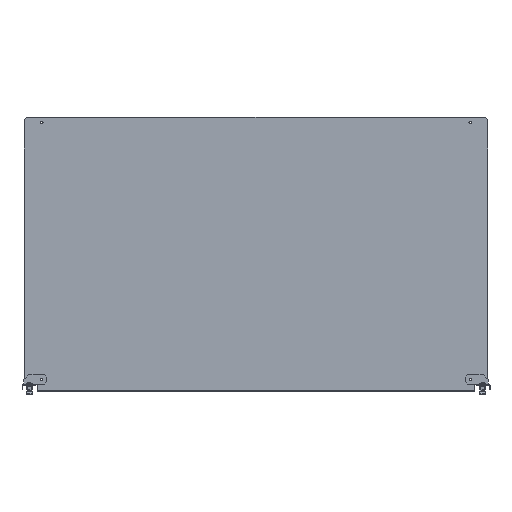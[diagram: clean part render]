
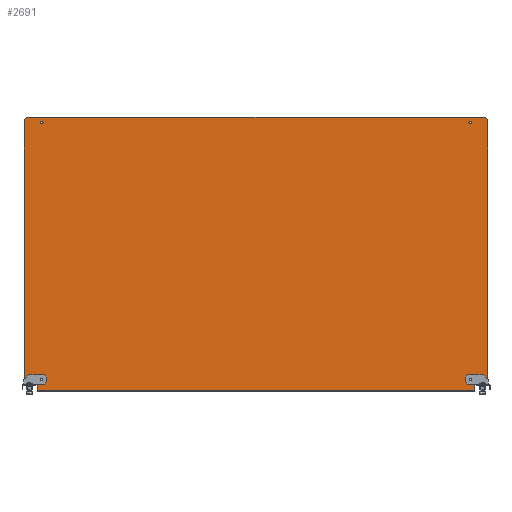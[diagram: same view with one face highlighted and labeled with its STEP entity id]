
A CAD part, top view. The second image highlights one B-rep face of the part: STEP entity #2691.
In plain terms, the highlighted planar face has unit normal (0, 0, 1).
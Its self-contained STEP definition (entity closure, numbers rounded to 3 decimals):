
#386=CARTESIAN_POINT(' ',(443.25,-255.,0.));
#387=VERTEX_POINT(' ',#386);
#461=CARTESIAN_POINT(' ',(440.25,-258.,0.));
#462=VERTEX_POINT(' ',#461);
#476=CARTESIAN_POINT(' ',(440.25,-255.,0.));
#481=DIRECTION(' ',(0.,-0.,1.));
#486=DIRECTION(' ',(0.,-1.,0.));
#491=AXIS2_PLACEMENT_3D(' ',#476,#481,#486);
#496=CIRCLE('',#491,3.);
#501=EDGE_CURVE(' ',#462,#387,#496,.T.);
#596=CARTESIAN_POINT(' ',(440.251,-254.999,0.));
#601=DIRECTION(' ',(0.,0.,1.));
#606=DIRECTION(' ',(1.,0.,0.));
#611=AXIS2_PLACEMENT_3D(' ',#596,#601,#606);
#616=CIRCLE('',#611,2.999);
#621=CARTESIAN_POINT(' ',(440.25,-252.,0.));
#622=VERTEX_POINT(' ',#621);
#626=EDGE_CURVE(' ',#387,#622,#616,.T.);
#1671=CARTESIAN_POINT(' ',(434.25,-258.,0.));
#1676=DIRECTION(' ',(1.,0.,0.));
#1681=VECTOR(' ',#1676,1.);
#1686=LINE('',#1671,#1681);
#1691=CARTESIAN_POINT(' ',(434.25,-258.,0.));
#1692=VERTEX_POINT(' ',#1691);
#1696=EDGE_CURVE(' ',#1692,#462,#1686,.T.);
#1761=DIRECTION(' ',(-0.,-0.,1.));
#1766=CARTESIAN_POINT(' ',(473.,-277.4,0.));
#1771=DIRECTION(' ',(0.,1.,0.));
#1776=AXIS2_PLACEMENT_3D(' ',#1766,#1761,#1771);
#1781=PLANE('NONE',#1776);
#1786=CARTESIAN_POINT(' ',(446.,-265.,0.));
#1791=DIRECTION(' ',(1.,0.,0.));
#1796=VECTOR(' ',#1791,1.);
#1801=LINE('',#1786,#1796);
#1806=CARTESIAN_POINT(' ',(446.,-265.,0.));
#1807=VERTEX_POINT(' ',#1806);
#1811=CARTESIAN_POINT(' ',(468.,-265.,0.));
#1812=VERTEX_POINT(' ',#1811);
#1816=EDGE_CURVE(' ',#1807,#1812,#1801,.T.);
#1821=ORIENTED_EDGE(' ',*,*,#1816,.T.);
#1826=CARTESIAN_POINT(' ',(468.,-265.,0.));
#1831=DIRECTION(' ',(0.707,0.707,0.));
#1836=VECTOR(' ',#1831,1.);
#1841=LINE('',#1826,#1836);
#1846=CARTESIAN_POINT(' ',(473.,-260.,0.));
#1847=VERTEX_POINT(' ',#1846);
#1851=EDGE_CURVE(' ',#1812,#1847,#1841,.T.);
#1856=ORIENTED_EDGE(' ',*,*,#1851,.T.);
#1861=CARTESIAN_POINT(' ',(473.,-260.,0.));
#1866=DIRECTION(' ',(0.,1.,0.));
#1871=VECTOR(' ',#1866,1.);
#1876=LINE('',#1861,#1871);
#1881=CARTESIAN_POINT(' ',(473.,274.5,0.));
#1882=VERTEX_POINT(' ',#1881);
#1886=EDGE_CURVE(' ',#1847,#1882,#1876,.T.);
#1891=ORIENTED_EDGE(' ',*,*,#1886,.T.);
#1896=CARTESIAN_POINT(' ',(473.,274.5,0.));
#1901=DIRECTION(' ',(-0.707,0.707,0.));
#1906=VECTOR(' ',#1901,1.);
#1911=LINE('',#1896,#1906);
#1916=CARTESIAN_POINT(' ',(468.,279.5,0.));
#1917=VERTEX_POINT(' ',#1916);
#1921=EDGE_CURVE(' ',#1882,#1917,#1911,.T.);
#1926=ORIENTED_EDGE(' ',*,*,#1921,.T.);
#1931=CARTESIAN_POINT(' ',(468.,279.5,0.));
#1936=DIRECTION(' ',(-1.,0.,0.));
#1941=VECTOR(' ',#1936,1.);
#1946=LINE('',#1931,#1941);
#1951=CARTESIAN_POINT(' ',(-468.,279.5,0.));
#1952=VERTEX_POINT(' ',#1951);
#1956=EDGE_CURVE(' ',#1917,#1952,#1946,.T.);
#1961=ORIENTED_EDGE(' ',*,*,#1956,.T.);
#1966=CARTESIAN_POINT(' ',(-468.,279.5,0.));
#1971=DIRECTION(' ',(-0.707,-0.707,0.));
#1976=VECTOR(' ',#1971,1.);
#1981=LINE('',#1966,#1976);
#1986=CARTESIAN_POINT(' ',(-473.,274.5,0.));
#1987=VERTEX_POINT(' ',#1986);
#1991=EDGE_CURVE(' ',#1952,#1987,#1981,.T.);
#1996=ORIENTED_EDGE(' ',*,*,#1991,.T.);
#2001=CARTESIAN_POINT(' ',(-473.,274.5,0.));
#2006=DIRECTION(' ',(0.,-1.,0.));
#2011=VECTOR(' ',#2006,1.);
#2016=LINE('',#2001,#2011);
#2021=CARTESIAN_POINT(' ',(-473.,-260.,0.));
#2022=VERTEX_POINT(' ',#2021);
#2026=EDGE_CURVE(' ',#1987,#2022,#2016,.T.);
#2031=ORIENTED_EDGE(' ',*,*,#2026,.T.);
#2036=CARTESIAN_POINT(' ',(-473.,-260.,0.));
#2041=DIRECTION(' ',(0.707,-0.707,0.));
#2046=VECTOR(' ',#2041,1.);
#2051=LINE('',#2036,#2046);
#2056=CARTESIAN_POINT(' ',(-468.,-265.,0.));
#2057=VERTEX_POINT(' ',#2056);
#2061=EDGE_CURVE(' ',#2022,#2057,#2051,.T.);
#2066=ORIENTED_EDGE(' ',*,*,#2061,.T.);
#2071=CARTESIAN_POINT(' ',(-468.,-265.,0.));
#2076=DIRECTION(' ',(1.,0.,0.));
#2081=VECTOR(' ',#2076,1.);
#2086=LINE('',#2071,#2081);
#2091=CARTESIAN_POINT(' ',(-446.,-265.,0.));
#2092=VERTEX_POINT(' ',#2091);
#2096=EDGE_CURVE(' ',#2057,#2092,#2086,.T.);
#2101=ORIENTED_EDGE(' ',*,*,#2096,.T.);
#2106=CARTESIAN_POINT(' ',(-446.,-265.,0.));
#2111=DIRECTION(' ',(0.,-1.,0.));
#2116=VECTOR(' ',#2111,1.);
#2121=LINE('',#2106,#2116);
#2126=CARTESIAN_POINT(' ',(-446.,-277.4,0.));
#2127=VERTEX_POINT(' ',#2126);
#2131=EDGE_CURVE(' ',#2092,#2127,#2121,.T.);
#2136=ORIENTED_EDGE(' ',*,*,#2131,.T.);
#2141=CARTESIAN_POINT(' ',(446.,-277.4,0.));
#2146=DIRECTION(' ',(-1.,0.,0.));
#2151=VECTOR(' ',#2146,1.);
#2156=LINE('',#2141,#2151);
#2161=CARTESIAN_POINT(' ',(446.,-277.4,0.));
#2162=VERTEX_POINT(' ',#2161);
#2166=EDGE_CURVE(' ',#2162,#2127,#2156,.T.);
#2171=ORIENTED_EDGE(' ',*,*,#2166,.F.);
#2176=CARTESIAN_POINT(' ',(446.,-277.4,0.));
#2181=DIRECTION(' ',(0.,1.,0.));
#2186=VECTOR(' ',#2181,1.);
#2191=LINE('',#2176,#2186);
#2196=EDGE_CURVE(' ',#2162,#1807,#2191,.T.);
#2201=ORIENTED_EDGE(' ',*,*,#2196,.T.);
#2206=EDGE_LOOP(' ',(#1821,#1856,#1891,#1926,#1961,#1996,#2031,#2066,#2101,#2136,#2171,#2201));
#2211=FACE_OUTER_BOUND(' ',#2206,.T.);
#2216=ORIENTED_EDGE(' ',*,*,#1696,.F.);
#2221=CARTESIAN_POINT(' ',(434.25,-255.,0.));
#2226=DIRECTION(' ',(-0.,0.,1.));
#2231=DIRECTION(' ',(0.,1.,0.));
#2236=AXIS2_PLACEMENT_3D(' ',#2221,#2226,#2231);
#2241=CIRCLE('',#2236,3.);
#2246=CARTESIAN_POINT(' ',(434.25,-252.,0.));
#2247=VERTEX_POINT(' ',#2246);
#2251=EDGE_CURVE(' ',#2247,#1692,#2241,.T.);
#2256=ORIENTED_EDGE(' ',*,*,#2251,.F.);
#2261=CARTESIAN_POINT(' ',(440.25,-252.,0.));
#2266=DIRECTION(' ',(-1.,0.,0.));
#2271=VECTOR(' ',#2266,1.);
#2276=LINE('',#2261,#2271);
#2281=EDGE_CURVE(' ',#622,#2247,#2276,.T.);
#2286=ORIENTED_EDGE(' ',*,*,#2281,.F.);
#2291=ORIENTED_EDGE(' ',*,*,#626,.F.);
#2296=ORIENTED_EDGE(' ',*,*,#501,.F.);
#2301=EDGE_LOOP(' ',(#2216,#2256,#2286,#2291,#2296));
#2306=FACE_BOUND(' ',#2301,.T.);
#2311=CARTESIAN_POINT(' ',(-434.25,-252.,0.));
#2316=DIRECTION(' ',(-1.,0.,0.));
#2321=VECTOR(' ',#2316,1.);
#2326=LINE('',#2311,#2321);
#2331=CARTESIAN_POINT(' ',(-434.25,-252.,0.));
#2332=VERTEX_POINT(' ',#2331);
#2336=CARTESIAN_POINT(' ',(-440.25,-252.,0.));
#2337=VERTEX_POINT(' ',#2336);
#2341=EDGE_CURVE(' ',#2332,#2337,#2326,.T.);
#2346=ORIENTED_EDGE(' ',*,*,#2341,.F.);
#2351=CARTESIAN_POINT(' ',(-434.249,-254.999,0.));
#2356=DIRECTION(' ',(0.,0.,1.));
#2361=DIRECTION(' ',(1.,0.,0.));
#2366=AXIS2_PLACEMENT_3D(' ',#2351,#2356,#2361);
#2371=CIRCLE('',#2366,2.999);
#2376=CARTESIAN_POINT(' ',(-431.25,-255.,0.));
#2377=VERTEX_POINT(' ',#2376);
#2381=EDGE_CURVE(' ',#2377,#2332,#2371,.T.);
#2386=ORIENTED_EDGE(' ',*,*,#2381,.F.);
#2391=CARTESIAN_POINT(' ',(-434.25,-255.,0.));
#2396=DIRECTION(' ',(0.,-0.,1.));
#2401=DIRECTION(' ',(0.,-1.,0.));
#2406=AXIS2_PLACEMENT_3D(' ',#2391,#2396,#2401);
#2411=CIRCLE('',#2406,3.);
#2416=CARTESIAN_POINT(' ',(-434.25,-258.,0.));
#2417=VERTEX_POINT(' ',#2416);
#2421=EDGE_CURVE(' ',#2417,#2377,#2411,.T.);
#2426=ORIENTED_EDGE(' ',*,*,#2421,.F.);
#2431=CARTESIAN_POINT(' ',(-440.25,-258.,0.));
#2436=DIRECTION(' ',(1.,0.,0.));
#2441=VECTOR(' ',#2436,1.);
#2446=LINE('',#2431,#2441);
#2451=CARTESIAN_POINT(' ',(-440.25,-258.,0.));
#2452=VERTEX_POINT(' ',#2451);
#2456=EDGE_CURVE(' ',#2452,#2417,#2446,.T.);
#2461=ORIENTED_EDGE(' ',*,*,#2456,.F.);
#2466=CARTESIAN_POINT(' ',(-440.25,-255.,0.));
#2471=DIRECTION(' ',(-0.,0.,1.));
#2476=DIRECTION(' ',(0.,1.,0.));
#2481=AXIS2_PLACEMENT_3D(' ',#2466,#2471,#2476);
#2486=CIRCLE('',#2481,3.);
#2491=EDGE_CURVE(' ',#2337,#2452,#2486,.T.);
#2496=ORIENTED_EDGE(' ',*,*,#2491,.F.);
#2501=EDGE_LOOP(' ',(#2346,#2386,#2426,#2461,#2496));
#2506=FACE_BOUND(' ',#2501,.T.);
#2511=CARTESIAN_POINT(' ',(-437.25,269.5,0.));
#2516=DIRECTION(' ',(0.,0.,1.));
#2521=DIRECTION(' ',(1.,0.,0.));
#2526=AXIS2_PLACEMENT_3D(' ',#2511,#2516,#2521);
#2531=CIRCLE('',#2526,2.75);
#2536=CARTESIAN_POINT(' ',(-434.5,269.5,0.));
#2537=VERTEX_POINT(' ',#2536);
#2541=CARTESIAN_POINT(' ',(-440.,269.5,0.));
#2542=VERTEX_POINT(' ',#2541);
#2546=EDGE_CURVE(' ',#2537,#2542,#2531,.T.);
#2551=ORIENTED_EDGE(' ',*,*,#2546,.F.);
#2556=CARTESIAN_POINT(' ',(-437.25,269.5,0.));
#2561=DIRECTION(' ',(0.,-0.,1.));
#2566=DIRECTION(' ',(-1.,0.,0.));
#2571=AXIS2_PLACEMENT_3D(' ',#2556,#2561,#2566);
#2576=CIRCLE('',#2571,2.75);
#2581=EDGE_CURVE(' ',#2542,#2537,#2576,.T.);
#2586=ORIENTED_EDGE(' ',*,*,#2581,.F.);
#2591=EDGE_LOOP(' ',(#2551,#2586));
#2596=FACE_BOUND(' ',#2591,.T.);
#2601=CARTESIAN_POINT(' ',(437.25,269.5,0.));
#2606=DIRECTION(' ',(0.,0.,1.));
#2611=DIRECTION(' ',(1.,0.,0.));
#2616=AXIS2_PLACEMENT_3D(' ',#2601,#2606,#2611);
#2621=CIRCLE('',#2616,2.75);
#2626=CARTESIAN_POINT(' ',(440.,269.5,0.));
#2627=VERTEX_POINT(' ',#2626);
#2631=CARTESIAN_POINT(' ',(434.5,269.5,0.));
#2632=VERTEX_POINT(' ',#2631);
#2636=EDGE_CURVE(' ',#2627,#2632,#2621,.T.);
#2641=ORIENTED_EDGE(' ',*,*,#2636,.F.);
#2646=CARTESIAN_POINT(' ',(437.25,269.5,0.));
#2651=DIRECTION(' ',(0.,-0.,1.));
#2656=DIRECTION(' ',(-1.,0.,0.));
#2661=AXIS2_PLACEMENT_3D(' ',#2646,#2651,#2656);
#2666=CIRCLE('',#2661,2.75);
#2671=EDGE_CURVE(' ',#2632,#2627,#2666,.T.);
#2676=ORIENTED_EDGE(' ',*,*,#2671,.F.);
#2681=EDGE_LOOP(' ',(#2641,#2676));
#2686=FACE_BOUND(' ',#2681,.T.);
#2691=ADVANCED_FACE('NONE',(#2211,#2306,#2506,#2596,#2686),#1781,.T.);
